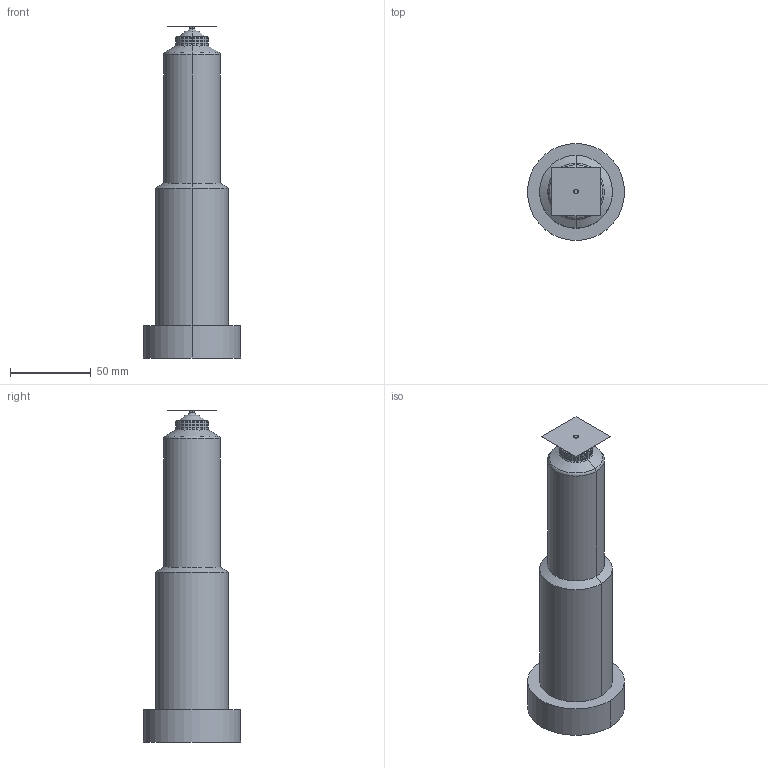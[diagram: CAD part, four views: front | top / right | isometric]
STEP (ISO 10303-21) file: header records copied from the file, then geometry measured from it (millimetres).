
FILE_DESCRIPTION (( 'STEP AP214' ), '1' );
FILE_NAME ('12EX16-03-205-VSW.STEP', '2021-12-20T12:56:42', ( '' ), ( '' ), 'SwSTEP 2.0', 'SolidWorks 2018', '' );
FILE_SCHEMA (( 'AUTOMOTIVE_DESIGN' ));
Length unit declared in the file: millimetre
Products named in the file (3): 12EX16-03-205-VSW; nozzle_12EX16-03-205-VSW; cutout_12EX16-03-205-VSW
Assembly tree (2 placements, depth 2):
  12EX16-03-205-VSW
    nozzle_12EX16-03-205-VSW
    cutout_12EX16-03-205-VSW
Bounding box: 60 x 60 x 205.3 mm (x, y, z)
Volume: 277930.2 mm3; surface area: 92891.2 mm2
Topology: 1 solids, 5 shells, 414 faces, 1097 edges, 669 vertices
Faces by surface type: cylinder 151, plane 138, torus 67, cone 50, bspline 6, sphere 2
Entity records: 17159 total; most frequent: CARTESIAN_POINT 6515, DIRECTION 2355, ORIENTED_EDGE 2186, EDGE_CURVE 1095, AXIS2_PLACEMENT_3D 940, VERTEX_POINT 669, CIRCLE 526, VECTOR 475
